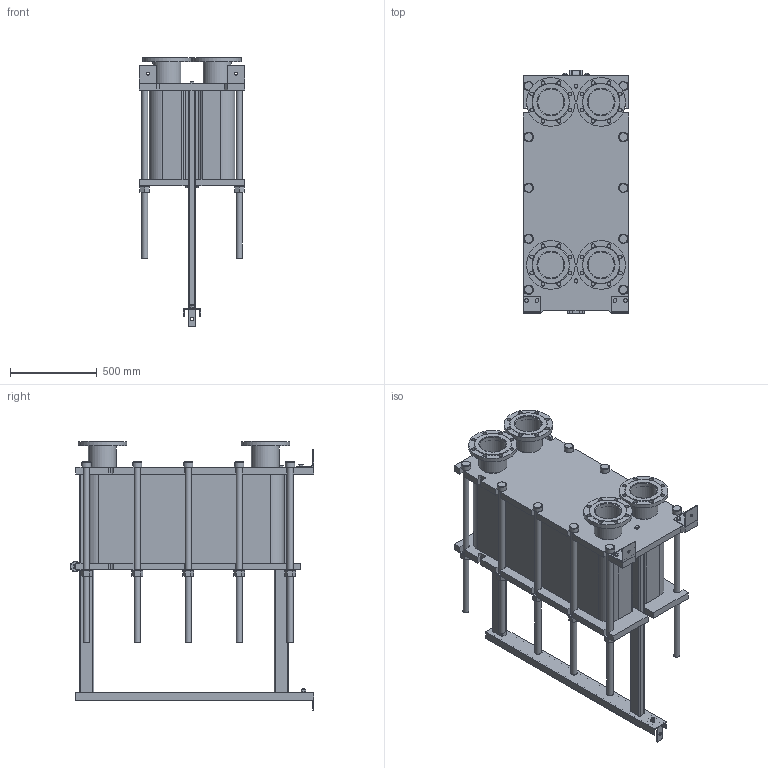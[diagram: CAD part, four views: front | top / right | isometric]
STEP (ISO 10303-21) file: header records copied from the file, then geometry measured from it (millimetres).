
FILE_DESCRIPTION(/* description */ (''),/* implementation_level */ '2;1');
FILE_NAME(/* name */ 'C:\Users\zhuro\Desktop\ENCO\TO\ЭН-041\ЭН-0,5-041-149-1.stp',/* time_stamp */ '2022-06-06T11:01:33+03:00',/* author */ ('zhuro'),/* organization */ (''),/* preprocessor_version */ 'ST-DEVELOPER v18.1',/* originating_system */ 'Autodesk Inventor 2022',/* authorisation */ '');
FILE_SCHEMA (('AUTOMOTIVE_DESIGN { 1 0 10303 214 3 1 1 }'));
Length unit declared in the file: millimetre
Products named in the file (1): ЭН-0,5-041-149-1
Bounding box: 610 x 1406.5 x 1557.5 mm (x, y, z)
Volume: 373037390.4 mm3; surface area: 10104920.9 mm2
Topology: 52 solids, 52 shells, 711 faces, 1696 edges, 1094 vertices
Faces by surface type: plane 487, cylinder 177, cone 41, torus 6
Full cylindrical faces by diameter (mm): 8 x4, 10 x2, 16 x8, 18 x3, 22 x32, 36 x24, 50 x1, 54 x10, 60 x12, 151 x4, 161 x8, 280 x4
Entity records: 22667 total; most frequent: CARTESIAN_POINT 5230, DIRECTION 3644, ORIENTED_EDGE 3392, EDGE_CURVE 1696, AXIS2_PLACEMENT_3D 1272, LINE 1100, VECTOR 1100, VERTEX_POINT 1094
